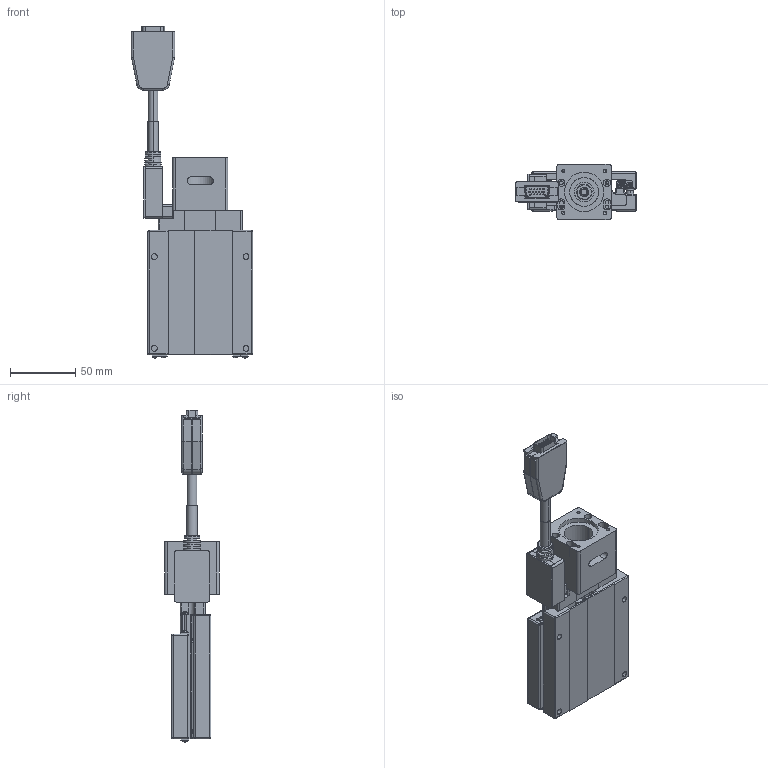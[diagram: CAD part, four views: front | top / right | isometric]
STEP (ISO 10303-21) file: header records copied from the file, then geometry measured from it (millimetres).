
FILE_DESCRIPTION (( 'STEP AP203' ), '1' );
FILE_NAME ('CXS8030(伺服P無馬達).STEP', '2023-12-07T07:24:24', ( '' ), ( '' ), 'SwSTEP 2.0', 'SolidWorks 2019', '' );
FILE_SCHEMA (( 'CONFIG_CONTROL_DESIGN' ));
Length unit declared in the file: millimetre
Products named in the file (5): CXS8030(伺服P無馬達); Group1^CXS8030(伺服P無馬達)_defeature_GMT; 伺服馬達轉接板(P.C.D 45).step_GMT; 伺服馬達轉接軸.step_GMT; Group2^CXS8030(伺服P無馬達)_defeature_GMT
Assembly tree (4 placements, depth 2):
  CXS8030(伺服P無馬達)
    Group1^CXS8030(伺服P無馬達)_defeature_GMT
    Group2^CXS8030(伺服P無馬達)_defeature_GMT
    伺服馬達轉接軸.step_GMT
    伺服馬達轉接板(P.C.D 45).step_GMT
Bounding box: 92.5 x 42 x 253.57 mm (x, y, z)
Volume: 228045.9 mm3; surface area: 92717.3 mm2
Topology: 23 solids, 24 shells, 2416 faces, 6284 edges, 3955 vertices
Faces by surface type: plane 1367, cylinder 628, bspline 176, cone 140, sphere 70, torus 35
Entity records: 80674 total; most frequent: CARTESIAN_POINT 22094, ORIENTED_EDGE 12256, DIRECTION 11823, EDGE_CURVE 6128, AXIS2_PLACEMENT_3D 3961, VERTEX_POINT 3901, VECTOR 3901, LINE 3901
